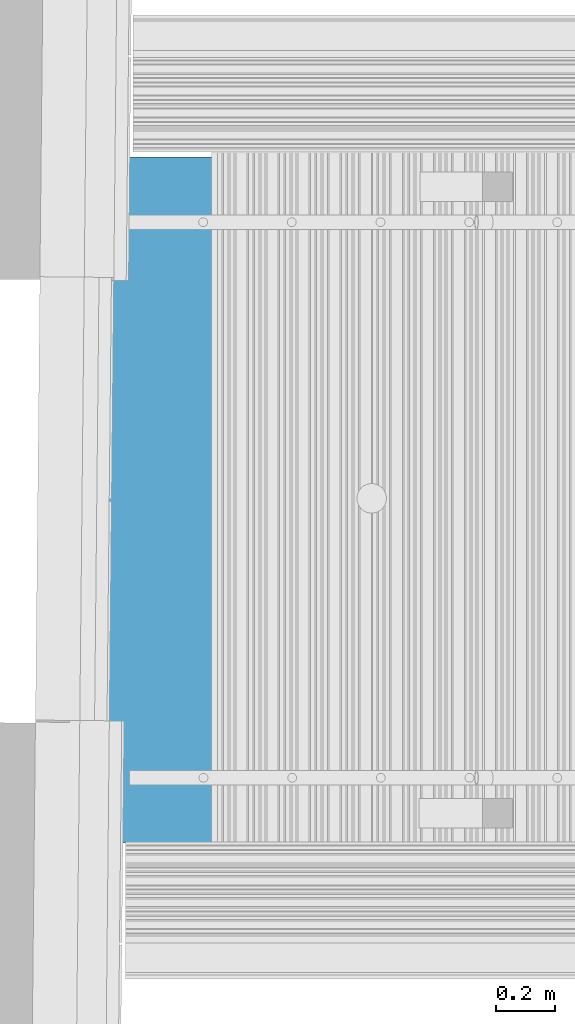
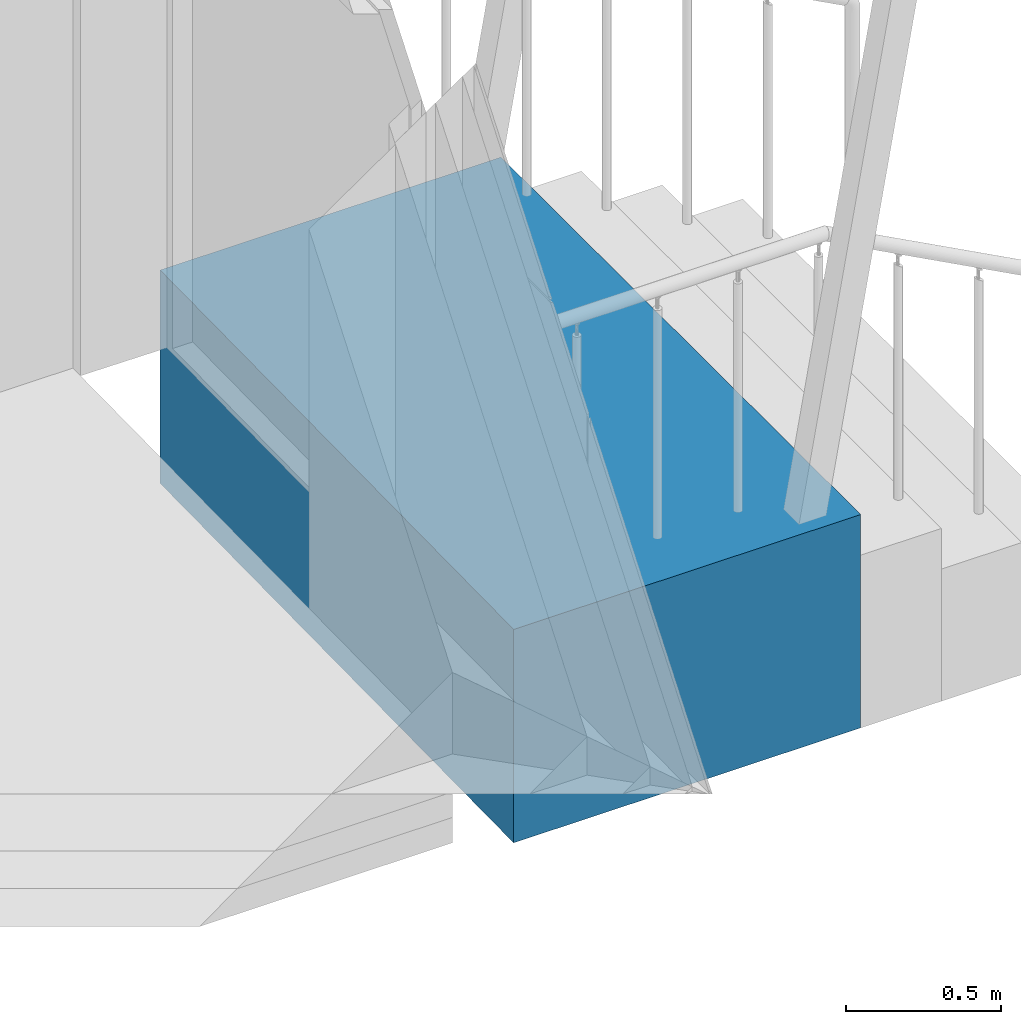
# One storey, part 94 of 418: 1 stair.
"""IFC2X3 building model written with IfcOpenShell, lengths in millimetres."""

from ifc_helpers import new_model, entity, si_unit, converted_unit, derived_unit, money_unit, direction, frame, origin_with_axes, place, context, subcontext, project, spatial, polyline, outline, extrude, boolean, faceted_brep, material, element, save


model = new_model("IFC2X3")

# Units and contexts
model_context = context("Model", 3, precision=0.01, world=origin_with_axes(), true_north=direction((0.0, 1.0)))
body_context = subcontext(model_context, "Body", "Model", "MODEL_VIEW")
ifc_project = project(units=[si_unit("LENGTHUNIT", "METRE", prefix="MILLI"), si_unit("AREAUNIT", "SQUARE_METRE"), si_unit("VOLUMEUNIT", "CUBIC_METRE"), converted_unit("PLANEANGLEUNIT", "DEGREE", entity("IfcPlaneAngleMeasure", 0.0174532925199), si_unit("PLANEANGLEUNIT", "RADIAN"), dimensions=[0, 0, 0, 0, 0, 0, 0]), si_unit("SOLIDANGLEUNIT", "STERADIAN"), money_unit("EUR"), converted_unit("TIMEUNIT", "Year", entity("IfcTimeMeasure", 31556926.0), si_unit("TIMEUNIT", "SECOND"), dimensions=[0, 0, 1, 0, 0, 0, 0]), si_unit("MASSUNIT", "GRAM", prefix="KILO"), si_unit("THERMODYNAMICTEMPERATUREUNIT", "DEGREE_CELSIUS"), si_unit("LUMINOUSINTENSITYUNIT", "LUMEN"), si_unit("ENERGYUNIT", "JOULE", prefix="MEGA"), derived_unit("THERMALCONDUCTANCEUNIT", [(si_unit("POWERUNIT", "WATT"), 1), (si_unit("LENGTHUNIT", "METRE"), -1), (si_unit("THERMODYNAMICTEMPERATUREUNIT", "KELVIN"), -1)]), derived_unit("SPECIFICHEATCAPACITYUNIT", [(si_unit("ENERGYUNIT", "JOULE"), 1), (si_unit("MASSUNIT", "GRAM", prefix="KILO"), -1), (si_unit("THERMODYNAMICTEMPERATUREUNIT", "KELVIN"), -1)]), derived_unit("MASSDENSITYUNIT", [(si_unit("MASSUNIT", "GRAM", prefix="KILO"), 1), (si_unit("VOLUMEUNIT", "CUBIC_METRE"), -1)])], contexts=[model_context])

# Site, building, storey
site_placement = place(None, origin_with_axes())
site = spatial("IfcSite", under=ifc_project, at=site_placement, Name="Paldiski mnt 245/1, Tallinn, Harjumaa", CompositionType="COMPLEX")
building_placement = place(site_placement, origin_with_axes())
building = spatial("IfcBuilding", under=site, at=building_placement, Name="RKAS Hoone üldnimetus (kasutust iseloomustav) -> IFC Project Manager -> SOLIBRI", CompositionType="ELEMENT")
storey_placement = place(building_placement, origin_with_axes())
storey = spatial("IfcBuildingStorey", under=building, at=storey_placement, Name="Esimene korrus", CompositionType="ELEMENT", Elevation=0.0)

# Stair
ifc_material = material(Name="KON-06_Raudbetoon - Konstruktsioon")
stair_placement = place(storey_placement, frame((-46849.7085134, 30671.790867, -20.0), z_axis=(0.0, 0.0, 1.0), x_axis=(1.0, 0.0, 0.0)))
element("IfcStair", 1, at=stair_placement, inside=storey, material=ifc_material, Name="Välistrepp", ShapeType="NOTDEFINED", context=body_context, shape_type="CSG", body=[
    boolean("DIFFERENCE", extrude(outline(polyline([(0.0, 0.0), (1292.2979643, 0.0), (1292.2979643, 2319.89132935), (23.0753673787, 2319.89132935), (0.0, 0.0)])), frame((0.0, 0.0, -840.0), z_axis=(0.0, 0.0, 1.0), x_axis=(1.0, 0.0, 0.0)), (0.0, 0.0, 1.0), 840.0), faceted_brep([(676.302058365, 660.410813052, 0.0), (1176.30205837, 660.410813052, 0.0), (1176.30205837, 1660.41081305, 0.0), (676.302058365, 1660.41081305, 0.0), (676.302058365, 660.410813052, -60.0), (1176.30205837, 660.410813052, -60.0), (1176.30205837, 1660.41081305, -60.0), (676.302058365, 1660.41081305, -60.0), (921.490185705, 1105.41081305, -60.0), (926.302058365, 1105.41081305, -60.0), (931.113931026, 1105.41081305, -60.0), (940.591480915, 1107.08196497, -60.0), (949.634855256, 1110.37347071, -60.0), (953.802058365, 1112.77941553, -60.0), (957.969261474, 1115.18535827, -60.0), (965.341483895, 1121.37138752, -60.0), (971.527513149, 1128.74360994, -60.0), (973.933455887, 1132.91081305, -60.0), (976.339400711, 1137.07801616, -60.0), (979.630906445, 1146.1213905, -60.0), (981.302058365, 1155.59894039, -60.0), (981.302058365, 1160.41081305, -60.0), (981.302058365, 1165.22268571, -60.0), (979.630906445, 1174.7002356, -60.0), (976.339400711, 1183.74360994, -60.0), (973.933455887, 1187.91081305, -60.0), (971.527513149, 1192.07801616, -60.0), (965.341483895, 1199.45023858, -60.0), (957.969261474, 1205.63626784, -60.0), (953.802058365, 1208.04221057, -60.0), (949.634855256, 1210.4481554, -60.0), (940.591480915, 1213.73966113, -60.0), (931.113931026, 1215.41081305, -60.0), (926.302058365, 1215.41081305, -60.0), (921.490185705, 1215.41081305, -60.0), (912.012635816, 1213.73966113, -60.0), (902.969261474, 1210.4481554, -60.0), (898.802058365, 1208.04221057, -60.0), (894.634855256, 1205.63626784, -60.0), (887.262632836, 1199.45023858, -60.0), (881.076603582, 1192.07801616, -60.0), (878.670660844, 1187.91081305, -60.0), (876.26471602, 1183.74360994, -60.0), (872.973210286, 1174.7002356, -60.0), (871.302058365, 1165.22268571, -60.0), (871.302058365, 1160.41081305, -60.0), (871.302058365, 1155.59894039, -60.0), (872.973210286, 1146.1213905, -60.0), (876.26471602, 1137.07801616, -60.0), (878.670660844, 1132.91081305, -60.0), (881.076603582, 1128.74360994, -60.0), (887.262632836, 1121.37138752, -60.0), (894.634855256, 1115.18535827, -60.0), (898.802058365, 1112.77941553, -60.0), (902.969261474, 1110.37347071, -60.0), (912.012635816, 1107.08196497, -60.0), (921.490185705, 1105.41081305, -20.0), (926.302058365, 1105.41081305, -20.0), (926.302058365, 1105.41081305, -20.0), (931.113931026, 1105.41081305, -20.0), (940.591480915, 1107.08196497, -20.0), (949.634855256, 1110.37347071, -20.0), (953.802058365, 1112.77941553, -20.0), (953.802058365, 1112.77941553, -20.0), (957.969261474, 1115.18535827, -20.0), (965.341483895, 1121.37138752, -20.0), (971.527513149, 1128.74360994, -20.0), (973.933455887, 1132.91081305, -20.0), (973.933455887, 1132.91081305, -20.0), (976.339400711, 1137.07801616, -20.0), (979.630906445, 1146.1213905, -20.0), (981.302058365, 1155.59894039, -20.0), (981.302058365, 1160.41081305, -20.0), (981.302058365, 1160.41081305, -20.0), (981.302058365, 1165.22268571, -20.0), (979.630906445, 1174.7002356, -20.0), (976.339400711, 1183.74360994, -20.0), (973.933455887, 1187.91081305, -20.0), (973.933455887, 1187.91081305, -20.0), (971.527513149, 1192.07801616, -20.0), (965.341483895, 1199.45023858, -20.0), (957.969261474, 1205.63626784, -20.0), (953.802058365, 1208.04221057, -20.0), (953.802058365, 1208.04221057, -20.0), (949.634855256, 1210.4481554, -20.0), (940.591480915, 1213.73966113, -20.0), (931.113931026, 1215.41081305, -20.0), (926.302058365, 1215.41081305, -20.0), (926.302058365, 1215.41081305, -20.0), (921.490185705, 1215.41081305, -20.0), (912.012635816, 1213.73966113, -20.0), (902.969261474, 1210.4481554, -20.0), (898.802058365, 1208.04221057, -20.0), (898.802058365, 1208.04221057, -20.0), (894.634855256, 1205.63626784, -20.0), (887.262632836, 1199.45023858, -20.0), (881.076603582, 1192.07801616, -20.0), (878.670660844, 1187.91081305, -20.0), (878.670660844, 1187.91081305, -20.0), (876.26471602, 1183.74360994, -20.0), (872.973210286, 1174.7002356, -20.0), (871.302058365, 1165.22268571, -20.0), (871.302058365, 1160.41081305, -20.0), (871.302058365, 1160.41081305, -20.0), (871.302058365, 1155.59894039, -20.0), (872.973210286, 1146.1213905, -20.0), (876.26471602, 1137.07801616, -20.0), (878.670660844, 1132.91081305, -20.0), (878.670660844, 1132.91081305, -20.0), (881.076603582, 1128.74360994, -20.0), (887.262632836, 1121.37138752, -20.0), (894.634855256, 1115.18535827, -20.0), (898.802058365, 1112.77941553, -20.0), (898.802058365, 1112.77941553, -20.0), (902.969261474, 1110.37347071, -20.0), (912.012635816, 1107.08196497, -20.0), (912.067010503, 1107.28489186, -20.0), (912.067010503, 1107.28489186, -300.0), (926.302058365, 1105.41081305, -300.0), (940.537106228, 1107.28489186, -20.0), (940.537106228, 1107.28489186, -300.0), (953.802058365, 1112.77941553, -300.0), (965.192931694, 1121.51993972, -300.0), (965.192931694, 1121.51993972, -20.0), (973.933455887, 1132.91081305, -300.0), (979.427979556, 1146.17576519, -300.0), (979.427979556, 1146.17576519, -20.0), (981.302058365, 1160.41081305, -300.0), (979.427979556, 1174.64586091, -300.0), (979.427979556, 1174.64586091, -20.0), (973.933455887, 1187.91081305, -300.0), (965.192931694, 1199.30168638, -300.0), (965.192931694, 1199.30168638, -20.0), (953.802058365, 1208.04221057, -300.0), (940.537106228, 1213.53673424, -300.0), (940.537106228, 1213.53673424, -20.0), (926.302058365, 1215.41081305, -300.0), (912.067010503, 1213.53673424, -300.0), (912.067010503, 1213.53673424, -20.0), (898.802058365, 1208.04221057, -300.0), (887.411185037, 1199.30168638, -300.0), (887.411185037, 1199.30168638, -20.0), (878.670660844, 1187.91081305, -300.0), (873.176137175, 1174.64586091, -300.0), (873.176137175, 1174.64586091, -20.0), (871.302058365, 1160.41081305, -300.0), (873.176137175, 1146.17576519, -300.0), (873.176137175, 1146.17576519, -20.0), (878.670660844, 1132.91081305, -300.0), (887.411185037, 1121.51993972, -300.0), (887.411185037, 1121.51993972, -20.0), (898.802058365, 1112.77941553, -300.0), (913.361106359, 1112.1145224, -300.0), (926.302058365, 1110.41081305, -300.0), (939.243010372, 1112.1145224, -300.0), (951.302058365, 1117.10954273, -300.0), (961.65739701, 1125.05547441, -300.0), (969.603328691, 1135.41081305, -300.0), (974.598349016, 1147.46986105, -300.0), (976.302058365, 1160.41081305, -300.0), (974.598349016, 1173.35176506, -300.0), (969.603328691, 1185.41081305, -300.0), (961.65739701, 1195.7661517, -300.0), (951.302058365, 1203.71208338, -300.0), (939.243010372, 1208.7071037, -300.0), (926.302058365, 1210.41081305, -300.0), (913.361106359, 1208.7071037, -300.0), (901.302058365, 1203.71208338, -300.0), (890.946719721, 1195.7661517, -300.0), (883.00078804, 1185.41081305, -300.0), (878.005767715, 1173.35176506, -300.0), (876.302058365, 1160.41081305, -300.0), (878.005767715, 1147.46986105, -300.0), (883.00078804, 1135.41081305, -300.0), (890.946719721, 1125.05547441, -300.0), (901.302058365, 1117.10954273, -300.0), (913.361106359, 1112.1145224, -20.0), (926.302058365, 1110.41081305, -20.0), (939.243010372, 1112.1145224, -20.0), (951.302058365, 1117.10954273, -20.0), (961.65739701, 1125.05547441, -20.0), (969.603328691, 1135.41081305, -20.0), (974.598349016, 1147.46986105, -20.0), (976.302058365, 1160.41081305, -20.0), (974.598349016, 1173.35176506, -20.0), (969.603328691, 1185.41081305, -20.0), (961.65739701, 1195.7661517, -20.0), (951.302058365, 1203.71208338, -20.0), (939.243010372, 1208.7071037, -20.0), (926.302058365, 1210.41081305, -20.0), (913.361106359, 1208.7071037, -20.0), (901.302058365, 1203.71208338, -20.0), (890.946719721, 1195.7661517, -20.0), (883.00078804, 1185.41081305, -20.0), (878.005767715, 1173.35176506, -20.0), (876.302058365, 1160.41081305, -20.0), (878.005767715, 1147.46986105, -20.0), (883.00078804, 1135.41081305, -20.0), (890.946719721, 1125.05547441, -20.0), (901.302058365, 1117.10954273, -20.0)], [[[0, 1, 2, 3]], [[1, 0, 4, 5]], [[2, 1, 5, 6]], [[3, 2, 6, 7]], [[0, 3, 7, 4]], [[5, 4, 7, 6], [8, 9, 10, 11, 12, 13, 14, 15, 16, 17, 18, 19, 20, 21, 22, 23, 24, 25, 26, 27, 28, 29, 30, 31, 32, 33, 34, 35, 36, 37, 38, 39, 40, 41, 42, 43, 44, 45, 46, 47, 48, 49, 50, 51, 52, 53, 54, 55]], [[9, 8, 56, 57]], [[10, 9, 58, 59]], [[11, 10, 59, 60]], [[12, 11, 60, 61]], [[13, 12, 61, 62]], [[14, 13, 63, 64]], [[15, 14, 64, 65]], [[16, 15, 65, 66]], [[17, 16, 66, 67]], [[18, 17, 68, 69]], [[19, 18, 69, 70]], [[20, 19, 70, 71]], [[21, 20, 71, 72]], [[22, 21, 73, 74]], [[23, 22, 74, 75]], [[24, 23, 75, 76]], [[25, 24, 76, 77]], [[26, 25, 78, 79]], [[27, 26, 79, 80]], [[28, 27, 80, 81]], [[29, 28, 81, 82]], [[30, 29, 83, 84]], [[31, 30, 84, 85]], [[32, 31, 85, 86]], [[33, 32, 86, 87]], [[34, 33, 88, 89]], [[35, 34, 89, 90]], [[36, 35, 90, 91]], [[37, 36, 91, 92]], [[38, 37, 93, 94]], [[39, 38, 94, 95]], [[40, 39, 95, 96]], [[41, 40, 96, 97]], [[42, 41, 98, 99]], [[43, 42, 99, 100]], [[44, 43, 100, 101]], [[45, 44, 101, 102]], [[46, 45, 103, 104]], [[47, 46, 104, 105]], [[48, 47, 105, 106]], [[49, 48, 106, 107]], [[50, 49, 108, 109]], [[51, 50, 109, 110]], [[52, 51, 110, 111]], [[53, 52, 111, 112]], [[54, 53, 113, 114]], [[55, 54, 114, 115]], [[8, 55, 115, 56]], [[57, 56, 115, 114, 113, 116]], [[57, 116, 117, 118, 9]], [[119, 58, 9, 118, 120]], [[60, 59, 58, 119, 62, 61]], [[62, 119, 120, 121, 13]], [[121, 122, 123, 63, 13]], [[63, 123, 67, 66, 65, 64]], [[122, 124, 17, 67, 123]], [[124, 125, 126, 68, 17]], [[69, 68, 126, 72, 71, 70]], [[125, 127, 21, 72, 126]], [[127, 128, 129, 73, 21]], [[73, 129, 77, 76, 75, 74]], [[128, 130, 25, 77, 129]], [[130, 131, 132, 78, 25]], [[78, 132, 82, 81, 80, 79]], [[131, 133, 29, 82, 132]], [[133, 134, 135, 83, 29]], [[83, 135, 87, 86, 85, 84]], [[134, 136, 33, 87, 135]], [[136, 137, 138, 88, 33]], [[138, 92, 91, 90, 89, 88]], [[137, 139, 37, 92, 138]], [[139, 140, 141, 93, 37]], [[97, 96, 95, 94, 93, 141]], [[140, 142, 41, 97, 141]], [[142, 143, 144, 98, 41]], [[102, 101, 100, 99, 98, 144]], [[143, 145, 45, 102, 144]], [[145, 146, 147, 103, 45]], [[147, 107, 106, 105, 104, 103]], [[146, 148, 49, 107, 147]], [[148, 149, 150, 108, 49]], [[112, 111, 110, 109, 108, 150]], [[149, 151, 53, 112, 150]], [[116, 113, 53, 151, 117]], [[120, 118, 117, 151, 149, 148, 146, 145, 143, 142, 140, 139, 137, 136, 134, 133, 131, 130, 128, 127, 125, 124, 122, 121], [152, 153, 154, 155, 156, 157, 158, 159, 160, 161, 162, 163, 164, 165, 166, 167, 168, 169, 170, 171, 172, 173, 174, 175]], [[153, 152, 176, 177]], [[154, 153, 177, 178]], [[155, 154, 178, 179]], [[156, 155, 179, 180]], [[157, 156, 180, 181]], [[158, 157, 181, 182]], [[159, 158, 182, 183]], [[160, 159, 183, 184]], [[161, 160, 184, 185]], [[162, 161, 185, 186]], [[163, 162, 186, 187]], [[164, 163, 187, 188]], [[165, 164, 188, 189]], [[166, 165, 189, 190]], [[167, 166, 190, 191]], [[168, 167, 191, 192]], [[169, 168, 192, 193]], [[170, 169, 193, 194]], [[171, 170, 194, 195]], [[172, 171, 195, 196]], [[173, 172, 196, 197]], [[174, 173, 197, 198]], [[175, 174, 198, 199]], [[152, 175, 199, 176]], [[177, 176, 199, 198, 197, 196, 195, 194, 193, 192, 191, 190, 189, 188, 187, 186, 185, 184, 183, 182, 181, 180, 179, 178]]])),
])

save(model, "model.ifc")
